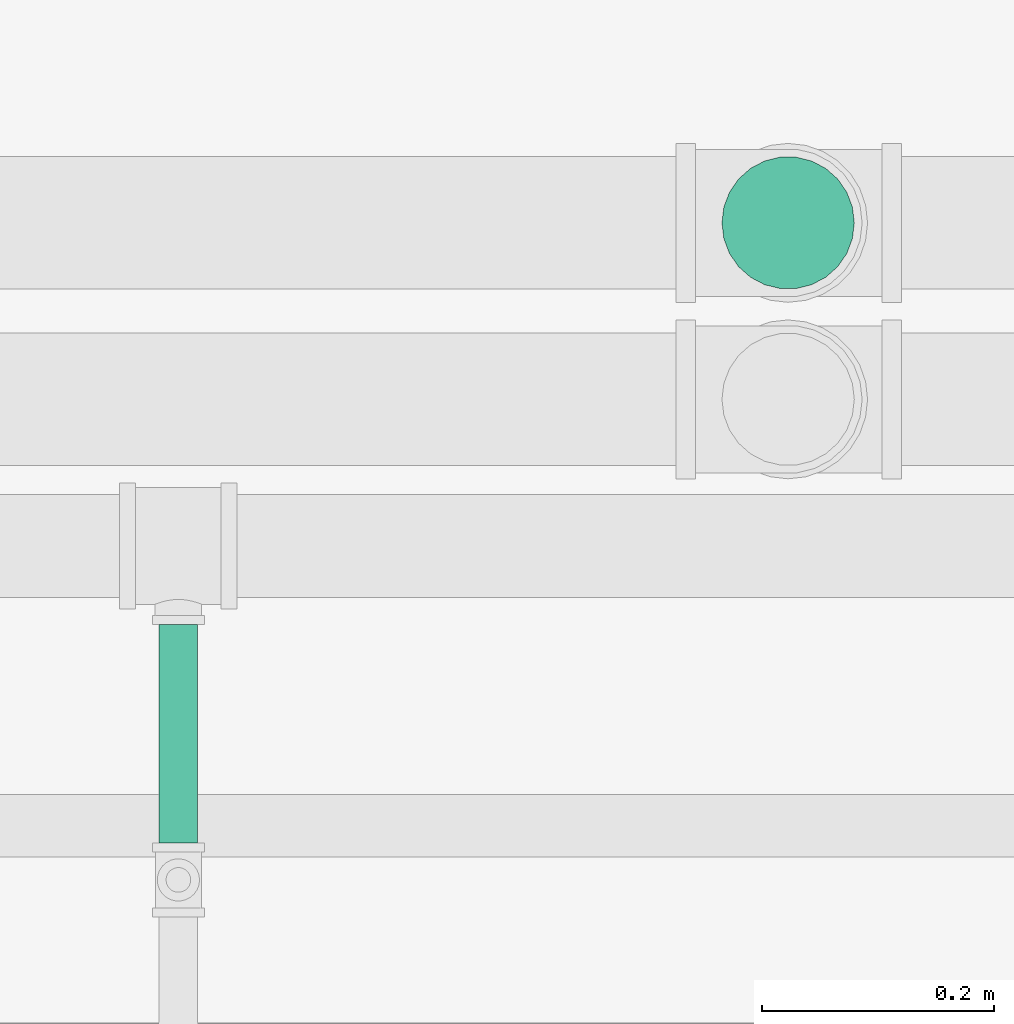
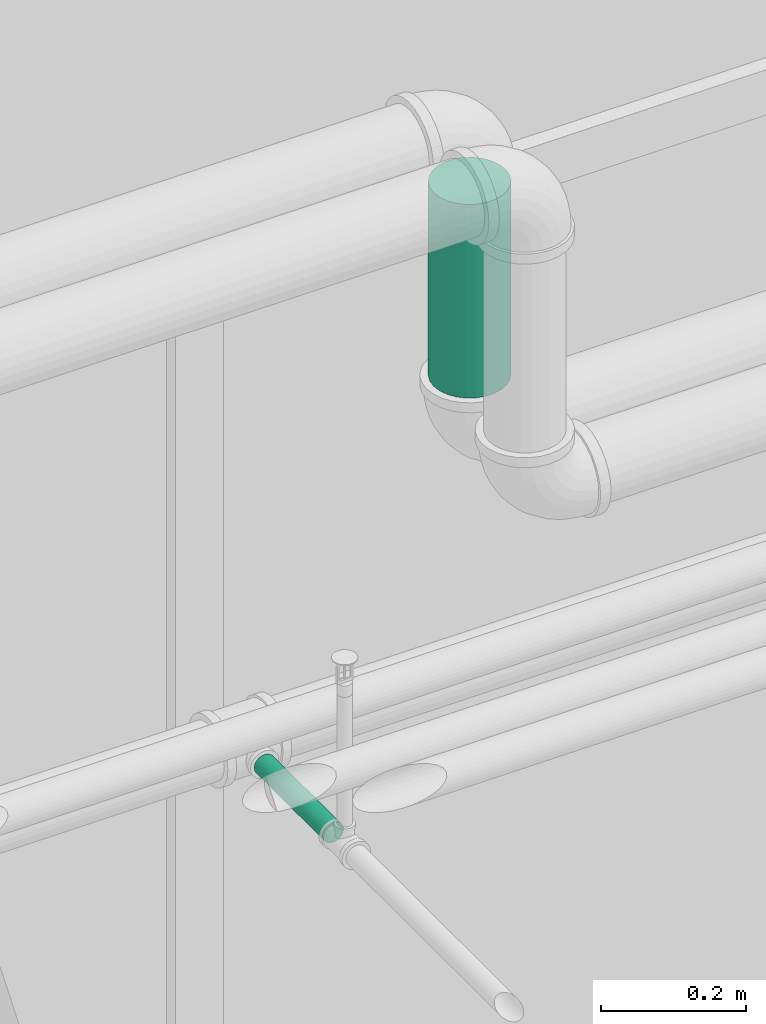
# One storey, part 55 of 108: 2 pipe segments.
"""IFC4 building model written with IfcOpenShell, lengths in feet."""

from ifc_helpers import new_model, entity, si_unit, converted_unit, derived_unit, direction, frame, frame_2d, origin, origin_2d_with_axis, place, context, subcontext, project, spatial, circle, extrude, type_object, element, save


model = new_model("IFC4")

# Units and contexts
model_context = context("Model", 3, precision=0.0001, world=origin(), true_north=direction((6.12303176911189e-17, 1.0)))
body_context = subcontext(model_context, "Body", "Model", "MODEL_VIEW")
ifc_project = project(units=[converted_unit("LENGTHUNIT", "FOOT", entity("IfcRatioMeasure", 0.3048), si_unit("LENGTHUNIT", "METRE"), dimensions=[1, 0, 0, 0, 0, 0, 0]), converted_unit("AREAUNIT", "SQUARE FOOT", entity("IfcRatioMeasure", 0.09290304), si_unit("AREAUNIT", "SQUARE_METRE"), dimensions=[2, 0, 0, 0, 0, 0, 0]), converted_unit("VOLUMEUNIT", "CUBIC FOOT", entity("IfcRatioMeasure", 0.028316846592), si_unit("VOLUMEUNIT", "CUBIC_METRE"), dimensions=[3, 0, 0, 0, 0, 0, 0]), converted_unit("PLANEANGLEUNIT", "DEGREE", entity("IfcRatioMeasure", 0.0174532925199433), si_unit("PLANEANGLEUNIT", "RADIAN"), dimensions=[0, 0, 0, 0, 0, 0, 0]), si_unit("MASSUNIT", "GRAM", prefix="KILO"), derived_unit("MASSDENSITYUNIT", [(si_unit("MASSUNIT", "GRAM", prefix="KILO"), 1), (si_unit("LENGTHUNIT", "METRE"), -3)]), si_unit("TIMEUNIT", "SECOND"), si_unit("FREQUENCYUNIT", "HERTZ"), si_unit("THERMODYNAMICTEMPERATUREUNIT", "DEGREE_CELSIUS"), derived_unit("THERMALTRANSMITTANCEUNIT", [(si_unit("MASSUNIT", "GRAM", prefix="KILO"), 1), (si_unit("THERMODYNAMICTEMPERATUREUNIT", "KELVIN"), -1), (si_unit("TIMEUNIT", "SECOND"), -3)]), derived_unit("VOLUMETRICFLOWRATEUNIT", [(si_unit("LENGTHUNIT", "METRE"), 3), (si_unit("TIMEUNIT", "SECOND"), -1)]), si_unit("ELECTRICCURRENTUNIT", "AMPERE"), si_unit("ELECTRICVOLTAGEUNIT", "VOLT"), si_unit("POWERUNIT", "WATT"), si_unit("FORCEUNIT", "NEWTON"), si_unit("ILLUMINANCEUNIT", "LUX"), si_unit("LUMINOUSFLUXUNIT", "LUMEN"), si_unit("LUMINOUSINTENSITYUNIT", "CANDELA"), derived_unit("USERDEFINED", [(si_unit("MASSUNIT", "GRAM", prefix="KILO"), -1), (si_unit("LENGTHUNIT", "METRE"), -2), (si_unit("TIMEUNIT", "SECOND"), 3), (si_unit("LUMINOUSFLUXUNIT", "LUMEN"), 1)]), derived_unit("LINEARVELOCITYUNIT", [(si_unit("LENGTHUNIT", "METRE"), 1), (si_unit("TIMEUNIT", "SECOND"), -1)]), si_unit("PRESSUREUNIT", "PASCAL"), derived_unit("USERDEFINED", [(si_unit("LENGTHUNIT", "METRE"), -2), (si_unit("MASSUNIT", "GRAM", prefix="KILO"), 1), (si_unit("TIMEUNIT", "SECOND"), -2)])], contexts=[model_context])

# Site, building, storey
site_placement = place(None, origin())
site = spatial("IfcSite", under=ifc_project, at=site_placement, Name="Default", CompositionType="ELEMENT")
building_placement = place(site_placement, origin())
building = spatial("IfcBuilding", under=site, at=building_placement, CompositionType="ELEMENT")
storey_placement = place(building_placement, frame((0.0, 0.0, 168.0)))
storey = spatial("IfcBuildingStorey", under=building, at=storey_placement, Name="Level 15", CompositionType="ELEMENT", Elevation=168.0)

# Pipe segments
pipe_segment_type_1 = type_object("IfcPipeSegmentType", Name="Pipe Types:Fire Prot Sched 10 Main", PredefinedType="NOTDEFINED")
pipe_segment_1_placement = place(storey_placement, frame((-50.8574057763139, 10.3734065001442, 8.93997450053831)))
element("IfcPipeSegment", 1, at=pipe_segment_1_placement, inside=storey, type_object=pipe_segment_type_1, Name="Pipe Types:Fire Prot Sched 10 Main", ObjectType="Pipe Types:Fire Prot Sched 10 Main", PredefinedType="NOTDEFINED", context=body_context, shape_type="SweptSolid", body=[
    extrude(circle(Radius=0.0547916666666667, at=frame_2d((9.9475983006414e-14, -2.8421709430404e-14), x_axis=(1.0, 0.0))), frame((0.0600254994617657, 0.0, 0.0600254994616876), z_axis=(0.0, 1.0, 0.0), x_axis=(-1.0, 0.0, 0.0)), (0.0, 0.0, 1.0), 0.619109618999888),
])
pipe_segment_type_2 = type_object("IfcPipeSegmentType", Name="Pipe Types:Hydronic", PredefinedType="NOTDEFINED")
pipe_segment_2_placement = place(storey_placement, frame((-49.2628806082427, 11.9370127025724, 9.85960937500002)))
element("IfcPipeSegment", 2, at=pipe_segment_2_placement, inside=storey, type_object=pipe_segment_type_2, Name="Pipe Types:Hydronic", ObjectType="Pipe Types:Hydronic", PredefinedType="NOTDEFINED", context=body_context, shape_type="SweptSolid", body=[
    extrude(circle(Radius=0.1875, at=origin_2d_with_axis()), frame((0.192733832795, 0.192733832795, 0.0)), (0.0, 0.0, 1.0), 1.06928385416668),
])

save(model, "model.ifc")
